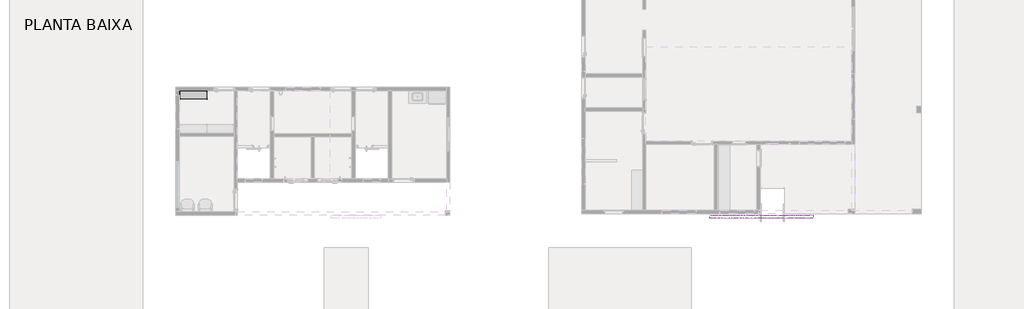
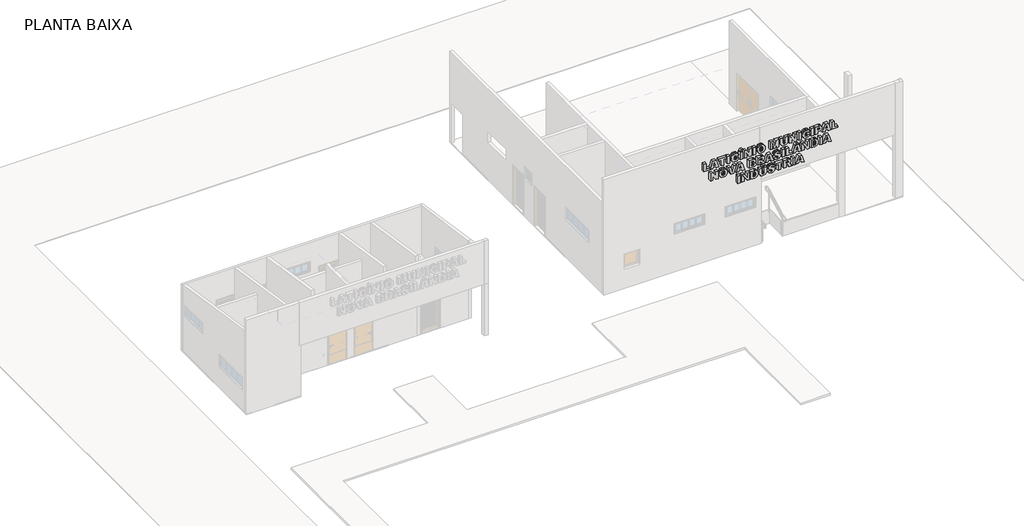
# One storey, part 4 of 4: 2 proxies.
"""IFC4 building model written with IfcOpenShell, lengths in millimetres."""

from ifc_helpers import new_model, si_unit, frame, origin, place, context, project, spatial, polyline, outline, extrude, transform, mapped, element, save
from components import proxy_9966d709

model = new_model("IFC4")

# Units and contexts
model_context = context("Model", 3, world=origin())
ifc_project = project(units=[si_unit("LENGTHUNIT", "METRE", prefix="MILLI")], contexts=[model_context])

# Site, building, storey
site = spatial("IfcSite", under=ifc_project)
building = spatial("IfcBuilding", under=site)
storey = spatial("IfcBuildingStorey", under=building, Name="PLANTA BAIXA", Elevation=150.0)

# Proxies
placement = place(None, origin())
element("IfcBuildingElementProxy", 1, Name="400 mm Arial 2", ObjectType="400 mm Arial 2", at=placement, inside=storey, context=model_context, shape_type="SweptSolid", body=[
    extrude(outline(polyline([(5599.9877853, 1104.8864384), (5198.5773022, 1104.8864384), (5198.5773022, 1419.7181898), (5293.0268276, 1419.7181898), (5293.0268276, 1230.8191389), (5599.9877853, 1230.8191389), (5599.9877853, 1104.8864384)])), frame((0.0, -4203.2411617, 0.0), z_axis=(0.0, 1.0, 0.0), x_axis=(0.0, 0.0, 1.0)), (0.0, 0.0, 1.0), 150.0),
    extrude(outline(polyline([(5261.5436525, 1716.3487306), (5198.5773022, 1734.5499413), (5198.5773022, 1868.3534356), (5599.9877853, 1732.9511863), (5599.9877853, 1570.8620267), (5198.5773022, 1435.4597774), (5198.5773022, 1569.2632717), (5261.5436525, 1586.6036143), (5261.5436525, 1716.3487306)]), holes=[polyline([(5355.9931779, 1692.490387), (5355.9931779, 1612.6756187), (5497.7904472, 1651.9066065), (5355.9931779, 1692.490387)])]), frame((0.0, -4203.2411617, 0.0), z_axis=(0.0, 1.0, 0.0), x_axis=(0.0, 0.0, 1.0)), (0.0, 0.0, 1.0), 150.0),
    extrude(outline(polyline([(5599.9877853, 1884.0950232), (5505.5382599, 1884.0950232), (5505.5382599, 2010.0277238), (5198.5773022, 2010.0277238), (5198.5773022, 2135.9604244), (5505.5382599, 2135.9604244), (5505.5382599, 2261.8931249), (5599.9877853, 2261.8931249), (5599.9877853, 1884.0950232)])), frame((0.0, -4203.2411617, 0.0), z_axis=(0.0, 1.0, 0.0), x_axis=(0.0, 0.0, 1.0)), (0.0, 0.0, 1.0), 150.0),
    extrude(outline(polyline([(2442.921382, -4203.2411617), (2316.9886814, -4203.2411617), (2316.9886814, -4053.2411617), (2442.921382, -4053.2411617), (2442.921382, -4203.2411617)])), frame((0.0, 0.0, 5198.5773022), z_axis=(0.0, 0.0, 1.0), x_axis=(1.0, 0.0, 0.0)), (0.0, 0.0, 1.0), 401.4104831),
    extrude(outline(polyline([(5363.8639717, 2797.1071024), (5330.0441547, 2786.3769968), (5305.3249429, 2770.6661545), (5296.5010452, 2760.4817778), (5290.1982611, 2748.1298583), (5285.1560339, 2716.9233907), (5286.6971414, 2699.5715187), (5291.3204642, 2684.2872673), (5299.026002, 2671.0706365), (5309.813755, 2659.9216263), (5324.7521219, 2651.0708265), (5344.9095015, 2644.7488266), (5400.8812988, 2639.6912267), (5447.4296651, 2644.0570576), (5465.3080502, 2649.5143463), (5479.5892366, 2657.1545504), (5494.3854066, 2669.9907082), (5504.9540994, 2685.378725), (5511.2953151, 2703.3186007), (5513.4090537, 2723.8103353), (5511.5335911, 2742.0730365), (5505.9072033, 2758.4910204), (5496.806598, 2772.7875794), (5484.5084827, 2784.686006), (5458.3134972, 2797.1071024), (5482.1718408, 2907.2982154), (5512.0793199, 2895.1230813), (5537.8515578, 2880.1193806), (5559.4885544, 2862.2871134), (5576.9903097, 2841.6262798), (5590.4951776, 2817.4835422), (5600.1415118, 2789.2055633), (5605.9293123, 2756.7923432), (5607.8585791, 2720.2438818), (5604.4996564, 2673.7224176), (5594.4228881, 2632.7889095), (5577.6282744, 2597.4433575), (5554.1158153, 2567.6857616), (5524.34669, 2544.0925961), (5488.7820778, 2527.240335), (5447.4219788, 2517.1289783), (5400.266393, 2513.7585261), (5364.3866416, 2515.6570476), (5331.888872, 2521.3526123), (5302.773084, 2530.84522), (5277.0392778, 2544.1348709), (5254.8065912, 2560.0378712), (5236.1941624, 2577.3705274), (5221.2019912, 2596.1328396), (5209.8300777, 2616.3248076), (5195.4874007, 2664.1644761), (5190.7065084, 2724.0562976), (5194.657278, 2773.6177022), (5206.5095866, 2813.5865769), (5226.1250805, 2845.8998748), (5253.3654058, 2872.4945491), (5288.2459353, 2893.063147), (5330.7820416, 2907.2982154), (5363.8639717, 2797.1071024)])), frame((0.0, -4203.2411617, 0.0), z_axis=(0.0, 1.0, 0.0), x_axis=(0.0, 0.0, 1.0)), (0.0, 0.0, 1.0), 150.0),
    extrude(outline(polyline([(3096.1972663, -4203.2411617), (2970.2645657, -4203.2411617), (2970.2645657, -4053.2411617), (3096.1972663, -4053.2411617), (3096.1972663, -4203.2411617)])), frame((0.0, 0.0, 5198.5773022), z_axis=(0.0, 0.0, 1.0), x_axis=(1.0, 0.0, 0.0)), (0.0, 0.0, 1.0), 401.4104831),
    extrude(outline(polyline([(5710.1788983, 3033.230916), (5631.4709605, 2986.0061533), (5631.4709605, 3033.230916), (5710.1788983, 3127.6804414), (5710.1788983, 3033.230916)])), frame((0.0, -4203.2411617, 0.0), z_axis=(0.0, 1.0, 0.0), x_axis=(0.0, 0.0, 1.0)), (0.0, 0.0, 1.0), 150.0),
    extrude(outline(polyline([(5599.9877853, 3182.7759979), (5198.5773022, 3182.7759979), (5198.5773022, 3300.8379047), (5418.9595282, 3300.8379047), (5198.5773022, 3450.3829867), (5198.5773022, 3568.4448935), (5599.9877853, 3568.4448935), (5599.9877853, 3450.3829867), (5378.1297855, 3450.3829867), (5599.9877853, 3299.9770367), (5599.9877853, 3182.7759979)])), frame((0.0, -4203.2411617, 0.0), z_axis=(0.0, 1.0, 0.0), x_axis=(0.0, 0.0, 1.0)), (0.0, 0.0, 1.0), 150.0),
    extrude(outline(polyline([(3780.9563257, -4203.2411617), (3655.0236251, -4203.2411617), (3655.0236251, -4053.2411617), (3780.9563257, -4053.2411617), (3780.9563257, -4203.2411617)])), frame((0.0, 0.0, 5198.5773022), z_axis=(0.0, 0.0, 1.0), x_axis=(1.0, 0.0, 0.0)), (0.0, 0.0, 1.0), 401.4104831),
    extrude(outline(polyline([(5399.0365815, 3851.7934698), (5365.159117, 3853.5267354), (5334.2408865, 3858.7265323), (5306.28189, 3867.3928604), (5281.2821275, 3879.5257197), (5259.3415212, 3894.448714), (5240.5599933, 3911.4854469), (5224.9375437, 3930.6359183), (5212.4741725, 3951.9001282), (5202.9508195, 3975.689295), (5196.1484244, 4002.4146368), (5190.7065084, 4064.6738455), (5192.2783613, 4096.7527106), (5196.9939199, 4126.0875587), (5204.8531842, 4152.6783898), (5215.8561542, 4176.525204), (5229.6915339, 4197.6741192), (5246.0480272, 4216.1712532), (5264.9256342, 4232.0166061), (5286.3243548, 4245.2101779), (5310.5708577, 4255.594399), (5337.9918117, 4263.0116998), (5368.5872166, 4267.4620803), (5402.3570726, 4268.9455404), (5448.3481806, 4265.5481861), (5488.9204316, 4255.356123), (5524.0738255, 4238.3693513), (5553.8083624, 4214.5878709), (5577.4553322, 4184.518979), (5594.3460249, 4148.6699729), (5604.4804406, 4107.0408526), (5607.8585791, 4059.6316182), (5604.41895, 4013.3176846), (5594.1000626, 3972.3918628), (5576.901917, 3936.8541528), (5552.8245132, 3906.7045545), (5522.5749927, 3882.680955), (5486.8604973, 3865.521241), (5445.6810269, 3855.2254126), (5399.0365815, 3851.7934698)]), holes=[polyline([(5399.0365815, 3977.7261703), (5427.4913457, 3979.125081), (5451.6110243, 3983.3218128), (5471.3956173, 3990.3163659), (5486.8451246, 4000.1087402), (5498.4668436, 4012.2070111), (5506.7680714, 4026.119254), (5511.7488081, 4041.8454689), (5513.4090537, 4059.3856559), (5511.7757102, 4077.6867887), (5506.8756799, 4093.9741051), (5498.7089627, 4108.2476052), (5487.2755587, 4120.5072889), (5472.2987601, 4130.3534674), (5453.5018596, 4137.3864521), (5430.8848569, 4141.6062429), (5404.4477522, 4143.0128399), (5347.4921057, 4137.6170418), (5326.7505657, 4130.8722942), (5311.1665477, 4121.4296475), (5299.7869479, 4109.5273778), (5291.6586623, 4095.403761), (5286.781691, 4079.0587972), (5285.1560339, 4060.4924863), (5286.8162794, 4042.3681388), (5291.7970161, 4026.2422352), (5300.0982439, 4012.1147752), (5311.7199629, 3999.985759), (5327.1387249, 3990.247189), (5346.831082, 3983.2910675), (5370.7970342, 3979.1173946), (5399.0365815, 3977.7261703)])]), frame((0.0, -4203.2411617, 0.0), z_axis=(0.0, 1.0, 0.0), x_axis=(0.0, 0.0, 1.0)), (0.0, 0.0, 1.0), 150.0),
    extrude(outline(polyline([(5599.9877853, 4520.8109416), (5198.5773022, 4520.8109416), (5198.5773022, 4623.1312608), (5503.6935426, 4623.1312608), (5198.5773022, 4695.9361033), (5198.5773022, 4795.0589126), (5503.6935426, 4867.1258682), (5198.5773022, 4867.1258682), (5198.5773022, 4969.4461874), (5599.9877853, 4969.4461874), (5599.9877853, 4803.0526875), (5355.255291, 4745.3745268), (5599.9877853, 4686.9584792), (5599.9877853, 4520.8109416)])), frame((0.0, -4203.2411617, 0.0), z_axis=(0.0, 1.0, 0.0), x_axis=(0.0, 0.0, 1.0)), (0.0, 0.0, 1.0), 150.0),
    extrude(outline(polyline([(5599.9877853, 5307.8903202), (5355.0093287, 5307.8903202), (5325.3708709, 5303.4476261), (5303.3572445, 5290.1195436), (5289.7063365, 5268.982158), (5285.1560339, 5241.1115542), (5289.7831997, 5213.0564787), (5303.6646974, 5191.8576025), (5325.755187, 5178.52952), (5355.0093287, 5174.0868259), (5599.9877853, 5174.0868259), (5599.9877853, 5048.1541253), (5360.1745371, 5048.1541253), (5328.4146544, 5051.0441824), (5292.1659596, 5059.7143537), (5268.6458141, 5069.8910441), (5245.8020649, 5086.1553015), (5225.8791182, 5106.477937), (5211.1213798, 5128.8297616), (5200.960062, 5155.0401198), (5194.826377, 5186.9383563), (5190.7065084, 5250.9500464), (5194.0577448, 5298.1133186), (5204.1114541, 5338.0207027), (5217.2396922, 5363.5085466), (5237.4393465, 5387.8280696), (5263.1731528, 5408.4120401), (5292.9038465, 5422.6932265), (5325.5860879, 5431.0405722), (5360.1745371, 5433.8230208), (5599.9877853, 5433.8230208), (5599.9877853, 5307.8903202)])), frame((0.0, -4203.2411617, 0.0), z_axis=(0.0, 1.0, 0.0), x_axis=(0.0, 0.0, 1.0)), (0.0, 0.0, 1.0), 150.0),
    extrude(outline(polyline([(5599.9877853, 5512.5309587), (5198.5773022, 5512.5309587), (5198.5773022, 5630.5928655), (5418.9595282, 5630.5928655), (5198.5773022, 5780.1379474), (5198.5773022, 5898.1998542), (5599.9877853, 5898.1998542), (5599.9877853, 5780.1379474), (5378.1297855, 5780.1379474), (5599.9877853, 5629.7319974), (5599.9877853, 5512.5309587)])), frame((0.0, -4203.2411617, 0.0), z_axis=(0.0, 1.0, 0.0), x_axis=(0.0, 0.0, 1.0)), (0.0, 0.0, 1.0), 150.0),
    extrude(outline(polyline([(6110.7112864, -4203.2411617), (5984.7785858, -4203.2411617), (5984.7785858, -4053.2411617), (6110.7112864, -4053.2411617), (6110.7112864, -4203.2411617)])), frame((0.0, 0.0, 5198.5773022), z_axis=(0.0, 0.0, 1.0), x_axis=(1.0, 0.0, 0.0)), (0.0, 0.0, 1.0), 401.4104831),
    extrude(outline(polyline([(5363.8639717, 6464.8970068), (5330.0441547, 6454.1669012), (5305.3249429, 6438.4560589), (5296.5010452, 6428.2716822), (5290.1982611, 6415.9197627), (5285.1560339, 6384.7132951), (5286.6971414, 6367.3614231), (5291.3204642, 6352.0771717), (5299.026002, 6338.8605409), (5309.813755, 6327.7115307), (5324.7521219, 6318.8607309), (5344.9095015, 6312.538731), (5400.8812988, 6307.4811311), (5447.4296651, 6311.846962), (5465.3080502, 6317.3042507), (5479.5892366, 6324.9444548), (5494.3854066, 6337.7806126), (5504.9540994, 6353.1686294), (5511.2953151, 6371.1085051), (5513.4090537, 6391.6002397), (5511.5335911, 6409.8629409), (5505.9072033, 6426.2809248), (5496.806598, 6440.5774838), (5484.5084827, 6452.4759104), (5458.3134972, 6464.8970068), (5482.1718408, 6575.0881198), (5512.0793199, 6562.9129857), (5537.8515578, 6547.909285), (5559.4885544, 6530.0770179), (5576.9903097, 6509.4161842), (5590.4951776, 6485.2734466), (5600.1415118, 6456.9954677), (5605.9293123, 6424.5822476), (5607.8585791, 6388.0337862), (5604.4996564, 6341.512322), (5594.4228881, 6300.5788139), (5577.6282744, 6265.2332619), (5554.1158153, 6235.4756661), (5524.34669, 6211.8825005), (5488.7820778, 6195.0302394), (5447.4219788, 6184.9188827), (5400.266393, 6181.5484305), (5364.3866416, 6183.4469521), (5331.888872, 6189.1425167), (5302.773084, 6198.6351244), (5277.0392778, 6211.9247753), (5254.8065912, 6227.8277756), (5236.1941624, 6245.1604319), (5221.2019912, 6263.922744), (5209.8300777, 6284.114712), (5195.4874007, 6331.9543805), (5190.7065084, 6391.846202), (5194.657278, 6441.4076066), (5206.5095866, 6481.3764813), (5226.1250805, 6513.6897792), (5253.3654058, 6540.2844535), (5288.2459353, 6560.8530514), (5330.7820416, 6575.0881198), (5363.8639717, 6464.8970068)])), frame((0.0, -4203.2411617, 0.0), z_axis=(0.0, 1.0, 0.0), x_axis=(0.0, 0.0, 1.0)), (0.0, 0.0, 1.0), 150.0),
    extrude(outline(polyline([(6763.9871707, -4203.2411617), (6638.0544701, -4203.2411617), (6638.0544701, -4053.2411617), (6763.9871707, -4053.2411617), (6763.9871707, -4203.2411617)])), frame((0.0, 0.0, 5198.5773022), z_axis=(0.0, 0.0, 1.0), x_axis=(1.0, 0.0, 0.0)), (0.0, 0.0, 1.0), 401.4104831),
    extrude(outline(polyline([(5599.9877853, 6850.5659023), (5198.5773022, 6850.5659023), (5198.5773022, 6976.4986029), (5324.5100028, 6976.4986029), (5324.5100028, 7043.277369), (5326.8428015, 7077.8081708), (5333.8411978, 7107.6118846), (5345.5051915, 7132.6885103), (5361.8347827, 7153.0380479), (5382.3149878, 7168.7757923), (5406.4308233, 7180.0170383), (5434.1822891, 7186.761786), (5465.5693852, 7189.0100352), (5495.9495731, 7186.9270419), (5522.6480128, 7180.678062), (5545.6647042, 7170.2630957), (5564.9996473, 7155.6821427), (5580.3069577, 7136.9198306), (5591.2407508, 7113.9607866), (5597.8010267, 7086.8050108), (5599.9877853, 7055.4525031), (5599.9877853, 6850.5659023)]), holes=[polyline([(5418.9595282, 6976.4986029), (5505.5382599, 6976.4986029), (5505.5382599, 7008.5966838), (5502.3561225, 7035.1606129), (5492.8097106, 7051.6400874), (5478.7129959, 7060.2180228), (5461.8799506, 7063.0773346), (5444.7548251, 7059.7875887), (5431.0116812, 7049.9183512), (5421.9725665, 7031.9016123), (5418.9595282, 7004.1693623), (5418.9595282, 6976.4986029)])]), frame((0.0, -4203.2411617, 0.0), z_axis=(0.0, 1.0, 0.0), x_axis=(0.0, 0.0, 1.0)), (0.0, 0.0, 1.0), 150.0),
    extrude(outline(polyline([(5261.5436525, 7493.5113698), (5198.5773022, 7511.7125804), (5198.5773022, 7645.5160748), (5599.9877853, 7510.1138254), (5599.9877853, 7348.0246659), (5198.5773022, 7212.6224165), (5198.5773022, 7346.4259109), (5261.5436525, 7363.7662534), (5261.5436525, 7493.5113698)]), holes=[polyline([(5355.9931779, 7469.6530261), (5355.9931779, 7389.8382579), (5497.7904472, 7429.0692456), (5355.9931779, 7469.6530261)])]), frame((0.0, -4203.2411617, 0.0), z_axis=(0.0, 1.0, 0.0), x_axis=(0.0, 0.0, 1.0)), (0.0, 0.0, 1.0), 150.0),
    extrude(outline(polyline([(5599.9877853, 7684.8700437), (5198.5773022, 7684.8700437), (5198.5773022, 7999.7017951), (5293.0268276, 7999.7017951), (5293.0268276, 7810.8027443), (5599.9877853, 7810.8027443), (5599.9877853, 7684.8700437)])), frame((0.0, -4203.2411617, 0.0), z_axis=(0.0, 1.0, 0.0), x_axis=(0.0, 0.0, 1.0)), (0.0, 0.0, 1.0), 150.0),
    extrude(outline(polyline([(4971.7347655, 1451.2013649), (4570.3242824, 1451.2013649), (4570.3242824, 1569.2632717), (4790.7065084, 1569.2632717), (4570.3242824, 1718.8083537), (4570.3242824, 1836.8702605), (4971.7347655, 1836.8702605), (4971.7347655, 1718.8083537), (4749.8767657, 1718.8083537), (4971.7347655, 1568.4024037), (4971.7347655, 1451.2013649)])), frame((0.0, -4203.2411617, 0.0), z_axis=(0.0, 1.0, 0.0), x_axis=(0.0, 0.0, 1.0)), (0.0, 0.0, 1.0), 150.0),
    extrude(outline(polyline([(4770.7835617, 1899.8366108), (4736.9060972, 1901.5698764), (4705.9878667, 1906.7696733), (4678.0288702, 1915.4360014), (4653.0291077, 1927.5688607), (4631.0885014, 1942.491855), (4612.3069735, 1959.5285879), (4596.6845239, 1978.6790593), (4584.2211527, 1999.9432692), (4574.6977997, 2023.732436), (4567.8954046, 2050.4577778), (4562.4534886, 2112.7169865), (4564.0253415, 2144.7958516), (4568.7409001, 2174.1306997), (4576.6001644, 2200.7215308), (4587.6031344, 2224.568345), (4601.4385141, 2245.7172602), (4617.7950074, 2264.2143942), (4636.6726144, 2280.0597471), (4658.071335, 2293.2533189), (4682.3178379, 2303.63754), (4709.7387919, 2311.0548408), (4740.3341968, 2315.5052213), (4774.1040528, 2316.9886814), (4820.0951608, 2313.5913271), (4860.6674118, 2303.399264), (4895.8208057, 2286.4124923), (4925.5553426, 2262.6310119), (4949.2023124, 2232.56212), (4966.0930051, 2196.7131139), (4976.2274208, 2155.0839936), (4979.6055593, 2107.6747592), (4976.1659302, 2061.3608256), (4965.8470428, 2020.4350038), (4948.6488972, 1984.8972938), (4924.5714934, 1954.7476955), (4894.3219729, 1930.724096), (4858.6074775, 1913.564382), (4817.4280071, 1903.2685536), (4770.7835617, 1899.8366108)]), holes=[polyline([(4770.7835617, 2025.7693113), (4799.2383259, 2027.168222), (4823.3580045, 2031.3649538), (4843.1425975, 2038.3595069), (4858.5921048, 2048.1518812), (4870.2138238, 2060.2501521), (4878.5150516, 2074.162395), (4883.4957883, 2089.8886099), (4885.1560339, 2107.4287969), (4883.5226904, 2125.7299297), (4878.6226601, 2142.0172461), (4870.4559429, 2156.2907462), (4859.0225389, 2168.5504299), (4844.0457403, 2178.3966084), (4825.2488397, 2185.4295931), (4802.6318371, 2189.6493839), (4776.1947324, 2191.0559809), (4719.2390859, 2185.6601828), (4698.4975459, 2178.9154352), (4682.9135279, 2169.4727885), (4671.5339281, 2157.5705188), (4663.4056425, 2143.446902), (4658.5286712, 2127.1019382), (4656.9030141, 2108.5356273), (4658.5632596, 2090.4112798), (4663.5439963, 2074.2853762), (4671.8452241, 2060.1579162), (4683.4669431, 2048.0289), (4698.8857051, 2038.29033), (4718.5780622, 2031.3342085), (4742.5440144, 2027.1605356), (4770.7835617, 2025.7693113)])]), frame((0.0, -4203.2411617, 0.0), z_axis=(0.0, 1.0, 0.0), x_axis=(0.0, 0.0, 1.0)), (0.0, 0.0, 1.0), 150.0),
    extrude(outline(polyline([(4971.7347655, 2348.4718566), (4570.3242824, 2497.6479951), (4570.3242824, 2631.3285083), (4971.7347655, 2781.3655148), (4971.7347655, 2647.5620205), (4682.8520373, 2564.9186857), (4971.7347655, 2482.1523698), (4971.7347655, 2348.4718566)])), frame((0.0, -4203.2411617, 0.0), z_axis=(0.0, 1.0, 0.0), x_axis=(0.0, 0.0, 1.0)), (0.0, 0.0, 1.0), 150.0),
    extrude(outline(polyline([(4633.2906327, 3054.3836743), (4570.3242824, 3072.5848849), (4570.3242824, 3206.3883793), (4971.7347655, 3070.9861299), (4971.7347655, 2908.8969704), (4570.3242824, 2773.494721), (4570.3242824, 2907.2982154), (4633.2906327, 2924.638558), (4633.2906327, 3054.3836743)]), holes=[polyline([(4727.7401581, 3030.5253306), (4727.7401581, 2950.7105624), (4869.5374274, 2989.9415502), (4727.7401581, 3030.5253306)])]), frame((0.0, -4203.2411617, 0.0), z_axis=(0.0, 1.0, 0.0), x_axis=(0.0, 0.0, 1.0)), (0.0, 0.0, 1.0), 150.0),
    extrude(outline(polyline([(4971.7347655, 3434.6413991), (4570.3242824, 3434.6413991), (4570.3242824, 3648.1366805), (4575.7354531, 3703.6011805), (4581.1158786, 3730.9952323), (4588.8944365, 3750.4569998), (4605.8965809, 3772.9779234), (4628.1254243, 3790.1184216), (4654.5048816, 3800.9561357), (4683.9588677, 3804.568707), (4718.9470057, 3799.4957345), (4747.4171426, 3784.2768168), (4759.0926658, 3772.7165884), (4768.9080991, 3758.3277936), (4782.9586958, 3721.0645042), (4794.6726506, 3747.0135275), (4809.8915683, 3765.8296439), (4838.023507, 3783.0777506), (4871.2591636, 3788.8271195), (4891.7355255, 3786.8747937), (4910.4901514, 3781.0178163), (4927.523041, 3771.2561873), (4942.8341946, 3757.5899066), (4955.4781944, 3740.2803094), (4964.5096228, 3719.5887304), (4969.9284798, 3695.5151697), (4971.7347655, 3668.0596273), (4971.7347655, 3434.6413991)]), holes=[polyline([(4664.7738078, 3560.5740997), (4735.6109519, 3560.5740997), (4735.6109519, 3621.6957327), (4733.2589374, 3648.6439778), (4726.2028937, 3666.0304383), (4715.2729438, 3675.4846144), (4701.2992103, 3678.6360065), (4686.280137, 3675.4384965), (4674.6737907, 3665.8459666), (4667.2488035, 3648.4748787), (4664.7738078, 3621.941695), (4664.7738078, 3560.5740997)]), polyline([(4814.3188898, 3560.5740997), (4877.2852401, 3560.5740997), (4877.2852401, 3613.5789766), (4875.2406784, 3636.8070418), (4869.1069934, 3651.8876057), (4859.3761097, 3660.1427156), (4846.5399518, 3662.8944189), (4832.6738269, 3660.1427156), (4822.558627, 3651.8876057), (4816.3788241, 3636.6225701), (4814.3188898, 3612.8410897), (4814.3188898, 3560.5740997)])]), frame((0.0, -4203.2411617, 0.0), z_axis=(0.0, 1.0, 0.0), x_axis=(0.0, 0.0, 1.0)), (0.0, 0.0, 1.0), 150.0),
    extrude(outline(polyline([(4570.3242824, 3867.5350573), (4570.3242824, 3993.4677579), (4727.7401581, 3993.4677579), (4727.7401581, 4004.0441371), (4725.4957521, 4019.6319982), (4718.762534, 4033.4366326), (4707.8479567, 4043.6748136), (4688.8781138, 4055.2042967), (4570.3242824, 4119.1544962), (4570.3242824, 4261.0747467), (4682.7290562, 4200.4450383), (4707.2023056, 4183.2276769), (4727.9861204, 4163.5506924), (4742.4978965, 4131.4526115), (4749.7537845, 4156.4792761), (4758.7314087, 4175.4798642), (4776.4560673, 4198.0776511), (4798.8847551, 4215.2027766), (4826.017472, 4225.9943728), (4857.8542179, 4229.5915715), (4894.0106769, 4224.9336603), (4924.2640405, 4210.9599268), (4947.2615161, 4189.3921072), (4961.650311, 4161.9519374), (4969.2136519, 4124.8116292), (4971.7347655, 4074.1433942), (4971.7347655, 3867.5350573), (4570.3242824, 3867.5350573)]), holes=[polyline([(4806.448096, 3993.4677579), (4877.2852401, 3993.4677579), (4877.2852401, 4046.595616), (4875.0254614, 4074.4047292), (4868.2461253, 4091.6682085), (4857.2546848, 4100.6612053), (4842.3585926, 4103.6588709), (4831.5823691, 4101.7526631), (4822.128193, 4096.0340394), (4815.0106588, 4087.3331229), (4811.244361, 4076.4800361), (4806.448096, 4044.3819552), (4806.448096, 3993.4677579)])]), frame((0.0, -4203.2411617, 0.0), z_axis=(0.0, 1.0, 0.0), x_axis=(0.0, 0.0, 1.0)), (0.0, 0.0, 1.0), 150.0),
    extrude(outline(polyline([(4633.2906327, 4541.9636999), (4570.3242824, 4560.1649105), (4570.3242824, 4693.9684049), (4971.7347655, 4558.5661555), (4971.7347655, 4396.476996), (4570.3242824, 4261.0747467), (4570.3242824, 4394.878241), (4633.2906327, 4412.2185836), (4633.2906327, 4541.9636999)]), holes=[polyline([(4727.7401581, 4518.1053562), (4727.7401581, 4438.290588), (4869.5374274, 4477.5215758), (4727.7401581, 4518.1053562)])]), frame((0.0, -4203.2411617, 0.0), z_axis=(0.0, 1.0, 0.0), x_axis=(0.0, 0.0, 1.0)), (0.0, 0.0, 1.0), 150.0),
    extrude(outline(polyline([(4704.3737391, 4709.7099925), (4674.8582624, 4714.4217079), (4648.048371, 4723.3916457), (4623.9440651, 4736.619806), (4602.5453445, 4754.1061887), (4585.0051575, 4777.6263342), (4572.4764526, 4808.9557829), (4564.9592296, 4848.0945348), (4562.4534886, 4895.0425899), (4566.7270837, 4948.1089574), (4579.5478689, 4991.2138515), (4600.6545092, 5025.1105318), (4629.7856698, 5050.5522578), (4664.420237, 5066.4629444), (4702.0370972, 5071.7665066), (4733.8738431, 5067.8003645), (4762.4823338, 5055.9019379), (4787.2784088, 5035.2718495), (4807.6779075, 5005.1107218), (4825.7868823, 4958.7468271), (4843.7113853, 4889.508438), (4850.9980186, 4864.3895375), (4858.8380671, 4854.2128471), (4876.5473532, 4851.3842806), (4888.953077, 4853.4442149), (4899.360357, 4859.6240179), (4906.4164007, 4869.8929441), (4908.7684152, 4884.2202485), (4905.494042, 4901.8834165), (4895.6709224, 4915.2729896), (4878.6226601, 4924.6041845), (4853.6728587, 4930.0922185), (4860.9287467, 5056.0249191), (4889.7678271, 5050.2563344), (4914.4255483, 5040.4524306), (4934.9019102, 5026.6132077), (4951.196913, 5008.7386658), (4963.6256957, 4986.6059014), (4972.5033977, 4959.9920113), (4977.8300189, 4928.8969954), (4979.6055593, 4893.3208538), (4975.6701624, 4838.1638067), (4963.8639717, 4796.165743), (4945.2015818, 4765.1898651), (4920.6975871, 4743.0993755), (4892.4119219, 4729.8635289), (4862.4045206, 4725.45158), (4839.9066559, 4727.6268092), (4819.5148435, 4734.1524966), (4801.2290833, 4745.0286423), (4785.0493754, 4760.2552463), (4770.5837173, 4780.3780375), (4757.5630877, 4806.3116881), (4735.8569142, 4875.6115677), (4724.2966859, 4915.3037348), (4711.9985706, 4935.5033892), (4698.5936249, 4943.2512018), (4683.4669431, 4945.8338061), (4667.6484923, 4942.682414), (4653.8899758, 4933.2282379), (4644.3435638, 4917.9632023), (4641.1614265, 4897.3792318), (4642.7448088, 4882.6599251), (4647.4949559, 4869.7392177), (4655.4118676, 4858.6171097), (4666.495544, 4849.293601), (4685.6806038, 4840.7156656), (4711.9985706, 4835.6426931), (4704.3737391, 4709.7099925)])), frame((0.0, -4203.2411617, 0.0), z_axis=(0.0, 1.0, 0.0), x_axis=(0.0, 0.0, 1.0)), (0.0, 0.0, 1.0), 150.0),
    extrude(outline(polyline([(5268.5363513, -4203.2411617), (5142.6036507, -4203.2411617), (5142.6036507, -4053.2411617), (5268.5363513, -4053.2411617), (5268.5363513, -4203.2411617)])), frame((0.0, 0.0, 4570.3242824), z_axis=(0.0, 0.0, 1.0), x_axis=(1.0, 0.0, 0.0)), (0.0, 0.0, 1.0), 401.4104831),
    extrude(outline(polyline([(4971.7347655, 5355.1150829), (4570.3242824, 5355.1150829), (4570.3242824, 5669.9468344), (4664.7738078, 5669.9468344), (4664.7738078, 5481.0477835), (4971.7347655, 5481.0477835), (4971.7347655, 5355.1150829)])), frame((0.0, -4203.2411617, 0.0), z_axis=(0.0, 1.0, 0.0), x_axis=(0.0, 0.0, 1.0)), (0.0, 0.0, 1.0), 150.0),
    extrude(outline(polyline([(5081.9258785, 5867.0856225), (5003.2179407, 5803.7503288), (5003.2179407, 5872.3738121), (5045.277495, 5906.070648), (5003.2179407, 5939.7674839), (5003.2179407, 6008.3909672), (5081.9258785, 5947.0233719), (5081.9258785, 5867.0856225)])), frame((0.0, -4203.2411617, 0.0), z_axis=(0.0, 1.0, 0.0), x_axis=(0.0, 0.0, 1.0)), (0.0, 0.0, 1.0), 150.0),
    extrude(outline(polyline([(4633.2906327, 5966.5773752), (4570.3242824, 5984.7785858), (4570.3242824, 6118.5820802), (4971.7347655, 5983.1798309), (4971.7347655, 5821.0906713), (4570.3242824, 5685.688422), (4570.3242824, 5819.4919163), (4633.2906327, 5836.8322589), (4633.2906327, 5966.5773752)]), holes=[polyline([(4727.7401581, 5942.7190316), (4727.7401581, 5862.9042633), (4869.5374274, 5902.1352511), (4727.7401581, 5942.7190316)])]), frame((0.0, -4203.2411617, 0.0), z_axis=(0.0, 1.0, 0.0), x_axis=(0.0, 0.0, 1.0)), (0.0, 0.0, 1.0), 150.0),
    extrude(outline(polyline([(4971.7347655, 6157.9360491), (4570.3242824, 6157.9360491), (4570.3242824, 6275.9979559), (4790.7065084, 6275.9979559), (4570.3242824, 6425.5430379), (4570.3242824, 6543.6049447), (4971.7347655, 6543.6049447), (4971.7347655, 6425.5430379), (4749.8767657, 6425.5430379), (4971.7347655, 6275.1370879), (4971.7347655, 6157.9360491)])), frame((0.0, -4203.2411617, 0.0), z_axis=(0.0, 1.0, 0.0), x_axis=(0.0, 0.0, 1.0)), (0.0, 0.0, 1.0), 150.0),
    extrude(outline(polyline([(4971.7347655, 6622.3128825), (4570.3242824, 6622.3128825), (4570.3242824, 6806.9075931), (4573.0606131, 6841.9572216), (4581.269605, 6880.9422471), (4593.2448948, 6909.8581907), (4613.1832142, 6936.8371811), (4639.9931055, 6960.0191284), (4672.5831111, 6977.5439427), (4715.2729438, 6988.5661286), (4772.3823166, 6992.2401905), (4812.366564, 6989.7651948), (4850.1678959, 6982.3402077), (4884.6179913, 6969.4425593), (4914.5485294, 6950.5495797), (4938.9910335, 6925.7227594), (4956.9770272, 6895.0235891), (4968.0453309, 6856.1769174), (4971.7347655, 6806.9075931), (4971.7347655, 6622.3128825)]), holes=[polyline([(4877.2852401, 6748.2455831), (4877.2852401, 6778.4989467), (4875.8594273, 6800.3780625), (4871.5819891, 6818.9136281), (4864.4529254, 6834.1056437), (4854.4722362, 6845.9541091), (4840.625327, 6854.8587132), (4821.8976033, 6861.2191447), (4769.7997124, 6866.3074899), (4729.6309934, 6864.0323386), (4702.3445501, 6857.2068846), (4684.6198914, 6846.3691705), (4673.1365262, 6832.0572388), (4666.8644874, 6810.5201644), (4664.7738078, 6778.0070221), (4664.7738078, 6748.2455831), (4877.2852401, 6748.2455831)])]), frame((0.0, -4203.2411617, 0.0), z_axis=(0.0, 1.0, 0.0), x_axis=(0.0, 0.0, 1.0)), (0.0, 0.0, 1.0), 150.0),
    extrude(outline(polyline([(7189.0100352, -4203.2411617), (7063.0773346, -4203.2411617), (7063.0773346, -4053.2411617), (7189.0100352, -4053.2411617), (7189.0100352, -4203.2411617)])), frame((0.0, 0.0, 4570.3242824), z_axis=(0.0, 0.0, 1.0), x_axis=(1.0, 0.0, 0.0)), (0.0, 0.0, 1.0), 401.4104831),
    extrude(outline(polyline([(4633.2906327, 7517.1237511), (4570.3242824, 7535.3249617), (4570.3242824, 7669.1284561), (4971.7347655, 7533.7262068), (4971.7347655, 7371.6370472), (4570.3242824, 7236.2347979), (4570.3242824, 7370.0382922), (4633.2906327, 7387.3786348), (4633.2906327, 7517.1237511)]), holes=[polyline([(4727.7401581, 7493.2654075), (4727.7401581, 7413.4506392), (4869.5374274, 7452.681627), (4727.7401581, 7493.2654075)])]), frame((0.0, -4203.2411617, 0.0), z_axis=(0.0, 1.0, 0.0), x_axis=(0.0, 0.0, 1.0)), (0.0, 0.0, 1.0), 150.0),
    extrude(outline(polyline([(2978.1353595, -4203.2411617), (2852.2026589, -4203.2411617), (2852.2026589, -4053.2411617), (2978.1353595, -4053.2411617), (2978.1353595, -4203.2411617)])), frame((0.0, 0.0, 3942.0712626), z_axis=(0.0, 0.0, 1.0), x_axis=(1.0, 0.0, 0.0)), (0.0, 0.0, 1.0), 401.4104831),
    extrude(outline(polyline([(4343.4817457, 3064.7140911), (3942.0712626, 3064.7140911), (3942.0712626, 3182.7759979), (4162.4534886, 3182.7759979), (3942.0712626, 3332.3210799), (3942.0712626, 3450.3829867), (4343.4817457, 3450.3829867), (4343.4817457, 3332.3210799), (4121.6237459, 3332.3210799), (4343.4817457, 3181.9151299), (4343.4817457, 3064.7140911)])), frame((0.0, -4203.2411617, 0.0), z_axis=(0.0, 1.0, 0.0), x_axis=(0.0, 0.0, 1.0)), (0.0, 0.0, 1.0), 150.0),
    extrude(outline(polyline([(4343.4817457, 3529.0909245), (3942.0712626, 3529.0909245), (3942.0712626, 3713.685635), (3944.8075933, 3748.7352636), (3953.0165852, 3787.7202891), (3964.991875, 3816.6362327), (3984.9301944, 3843.6152231), (4011.7400857, 3866.7971704), (4044.3300913, 3884.3219847), (4087.019924, 3895.3441705), (4144.1292968, 3899.0182325), (4184.1135442, 3896.5432368), (4221.9148761, 3889.1182497), (4256.3649715, 3876.2206013), (4286.2955096, 3857.3276216), (4310.7380137, 3832.5008014), (4328.7240074, 3801.8016311), (4339.7923111, 3762.9549594), (4343.4817457, 3713.685635), (4343.4817457, 3529.0909245)]), holes=[polyline([(4249.0322203, 3655.0236251), (4249.0322203, 3685.2769887), (4247.6064075, 3707.1561045), (4243.3289693, 3725.6916701), (4236.1999056, 3740.8836856), (4226.2192164, 3752.7321511), (4212.3723072, 3761.6367552), (4193.6445835, 3767.9971867), (4141.5466926, 3773.0855319), (4101.3779736, 3770.8103806), (4074.0915303, 3763.9849266), (4056.3668716, 3753.1472125), (4044.8835064, 3738.8352808), (4038.6114676, 3717.2982064), (4036.520788, 3684.7850641), (4036.520788, 3655.0236251), (4249.0322203, 3655.0236251)])]), frame((0.0, -4203.2411617, 0.0), z_axis=(0.0, 1.0, 0.0), x_axis=(0.0, 0.0, 1.0)), (0.0, 0.0, 1.0), 150.0),
    extrude(outline(polyline([(4453.6728587, 4158.7544274), (4374.9649209, 4111.5296647), (4374.9649209, 4158.7544274), (4453.6728587, 4253.2039529), (4453.6728587, 4158.7544274)])), frame((0.0, -4203.2411617, 0.0), z_axis=(0.0, 1.0, 0.0), x_axis=(0.0, 0.0, 1.0)), (0.0, 0.0, 1.0), 150.0),
    extrude(outline(polyline([(4343.4817457, 4221.7207777), (4098.5032891, 4221.7207777), (4068.8648313, 4217.2780836), (4046.8512049, 4203.9500011), (4033.2002969, 4182.8126155), (4028.6499943, 4154.9420117), (4033.2771601, 4126.8869362), (4047.1586578, 4105.68806), (4069.2491474, 4092.3599775), (4098.5032891, 4087.9172834), (4343.4817457, 4087.9172834), (4343.4817457, 3961.9845828), (4103.6684975, 3961.9845828), (4071.9086148, 3964.8746399), (4035.65992, 3973.5448111), (4012.1397745, 3983.7215016), (3989.2960253, 3999.985759), (3969.3730786, 4020.3083945), (3954.6153402, 4042.6602191), (3944.4540224, 4068.8705773), (3938.3203374, 4100.7688138), (3934.2004688, 4164.7805039), (3937.5517052, 4211.9437761), (3947.6054145, 4251.8511602), (3960.7336526, 4277.3390041), (3980.9333069, 4301.6585271), (4006.6671132, 4322.2424976), (4036.3978069, 4336.523684), (4069.0800483, 4344.8710297), (4103.6684975, 4347.6534783), (4343.4817457, 4347.6534783), (4343.4817457, 4221.7207777)])), frame((0.0, -4203.2411617, 0.0), z_axis=(0.0, 1.0, 0.0), x_axis=(0.0, 0.0, 1.0)), (0.0, 0.0, 1.0), 150.0),
    extrude(outline(polyline([(4076.1207193, 4402.7490348), (4046.6052426, 4407.4607502), (4019.7953512, 4416.4306881), (3995.6910453, 4429.6588483), (3974.2923247, 4447.145231), (3956.7521377, 4470.6653765), (3944.2234328, 4501.9948252), (3936.7062098, 4541.1335771), (3934.2004688, 4588.0816322), (3938.4740639, 4641.1479997), (3951.2948491, 4684.2528938), (3972.4014894, 4718.1495741), (4001.53265, 4743.5913001), (4036.1672172, 4759.5019868), (4073.7840774, 4764.805549), (4105.6208233, 4760.8394068), (4134.229314, 4748.9409802), (4159.025389, 4728.3108918), (4179.4248877, 4698.1497641), (4197.5338625, 4651.7858695), (4215.4583655, 4582.5474804), (4222.7449988, 4557.4285799), (4230.5850473, 4547.2518895), (4248.2943334, 4544.423323), (4260.7000572, 4546.4832573), (4271.1073372, 4552.6630602), (4278.1633809, 4562.9319865), (4280.5153954, 4577.2592908), (4277.2410222, 4594.9224589), (4267.4179026, 4608.3120319), (4250.3696403, 4617.6432269), (4225.4198389, 4623.1312608), (4232.6757269, 4749.0639614), (4261.5148073, 4743.2953767), (4286.1725285, 4733.4914729), (4306.6488904, 4719.6522501), (4322.9438932, 4701.7777081), (4335.3726759, 4679.6449437), (4344.2503779, 4653.0310536), (4349.5769991, 4621.9360377), (4351.3525395, 4586.3598961), (4347.4171426, 4531.202849), (4335.6109519, 4489.2047853), (4316.948562, 4458.2289074), (4292.4445673, 4436.1384178), (4264.1589021, 4422.9025712), (4234.1515008, 4418.4906224), (4211.6536361, 4420.6658515), (4191.2618237, 4427.1915389), (4172.9760635, 4438.0676847), (4156.7963556, 4453.2942887), (4142.3306975, 4473.4170798), (4129.3100679, 4499.3507304), (4107.6038944, 4568.6506101), (4096.0436661, 4608.3427772), (4083.7455508, 4628.5424316), (4070.3406051, 4636.2902442), (4055.2139233, 4638.8728484), (4039.3954725, 4635.7214564), (4025.636956, 4626.2672802), (4016.090544, 4611.0022446), (4012.9084067, 4590.4182741), (4014.491789, 4575.6989674), (4019.2419361, 4562.77826), (4027.1588478, 4551.656152), (4038.2425242, 4542.3326434), (4057.427584, 4533.7547079), (4083.7455508, 4528.6817354), (4076.1207193, 4402.7490348)])), frame((0.0, -4203.2411617, 0.0), z_axis=(0.0, 1.0, 0.0), x_axis=(0.0, 0.0, 1.0)), (0.0, 0.0, 1.0), 150.0),
    extrude(outline(polyline([(4343.4817457, 4804.1595179), (4249.0322203, 4804.1595179), (4249.0322203, 4930.0922185), (3942.0712626, 4930.0922185), (3942.0712626, 5056.0249191), (4249.0322203, 5056.0249191), (4249.0322203, 5181.9576196), (4343.4817457, 5181.9576196), (4343.4817457, 4804.1595179)])), frame((0.0, -4203.2411617, 0.0), z_axis=(0.0, 1.0, 0.0), x_axis=(0.0, 0.0, 1.0)), (0.0, 0.0, 1.0), 150.0),
    extrude(outline(polyline([(3942.0712626, 5229.1823824), (3942.0712626, 5355.1150829), (4099.4871383, 5355.1150829), (4099.4871383, 5365.6914621), (4097.2427323, 5381.2793232), (4090.5095142, 5395.0839576), (4079.5949369, 5405.3221386), (4060.625094, 5416.8516217), (3942.0712626, 5480.8018212), (3942.0712626, 5622.7220717), (4054.4760364, 5562.0923633), (4078.9492858, 5544.8750019), (4099.7331006, 5525.1980174), (4114.2448767, 5493.0999365), (4121.5007647, 5518.1266011), (4130.4783889, 5537.1271893), (4148.2030475, 5559.7249761), (4170.6317353, 5576.8501016), (4197.7644522, 5587.6416978), (4229.6011981, 5591.2388965), (4265.7576571, 5586.5809854), (4296.0110207, 5572.6072519), (4319.0084963, 5551.0394322), (4333.3972912, 5523.5992624), (4340.9606321, 5486.4589543), (4343.4817457, 5435.7907193), (4343.4817457, 5229.1823824), (3942.0712626, 5229.1823824)]), holes=[polyline([(4178.1950762, 5355.1150829), (4249.0322203, 5355.1150829), (4249.0322203, 5408.242941), (4246.7724416, 5436.0520542), (4239.9931055, 5453.3155335), (4229.001665, 5462.3085304), (4214.1055728, 5465.306196), (4203.3293493, 5463.3999881), (4193.8751732, 5457.6813645), (4186.757639, 5448.9804479), (4182.9913412, 5438.1273612), (4178.1950762, 5406.0292803), (4178.1950762, 5355.1150829)])]), frame((0.0, -4203.2411617, 0.0), z_axis=(0.0, 1.0, 0.0), x_axis=(0.0, 0.0, 1.0)), (0.0, 0.0, 1.0), 150.0),
    extrude(outline(polyline([(5795.879535, -4203.2411617), (5669.9468344, -4203.2411617), (5669.9468344, -4053.2411617), (5795.879535, -4053.2411617), (5795.879535, -4203.2411617)])), frame((0.0, 0.0, 3942.0712626), z_axis=(0.0, 0.0, 1.0), x_axis=(1.0, 0.0, 0.0)), (0.0, 0.0, 1.0), 401.4104831),
    extrude(outline(polyline([(4005.0376129, 6123.9932509), (3942.0712626, 6142.1944616), (3942.0712626, 6275.9979559), (4343.4817457, 6140.5957066), (4343.4817457, 5978.5065471), (3942.0712626, 5843.1042977), (3942.0712626, 5976.9077921), (4005.0376129, 5994.2481346), (4005.0376129, 6123.9932509)]), holes=[polyline([(4099.4871383, 6100.1349073), (4099.4871383, 6020.320139), (4241.2844076, 6059.5511268), (4099.4871383, 6100.1349073)])]), frame((0.0, -4203.2411617, 0.0), z_axis=(0.0, 1.0, 0.0), x_axis=(0.0, 0.0, 1.0)), (0.0, 0.0, 1.0), 150.0),
])
proxy_shape = proxy_9966d709(model_context)
element("IfcBuildingElementProxy", 2, Name="prateleira2 : 48\" Wide x 14\" Deep", ObjectType="prateleira2 : 48\" Wide x 14\" Deep", at=placement, inside=storey, context=model_context, shape_type="MappedRepresentation", body=[
    mapped(proxy_shape, transform((-21569.5034017, 1400.4921951, 150.0), x_axis=(-1.0000000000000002, 0.0, 0.0), y_axis=(0.0, -1.0000000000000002, 0.0), z_axis=(0.0, 0.0, 1.0))),
])

save(model, "model.ifc")
